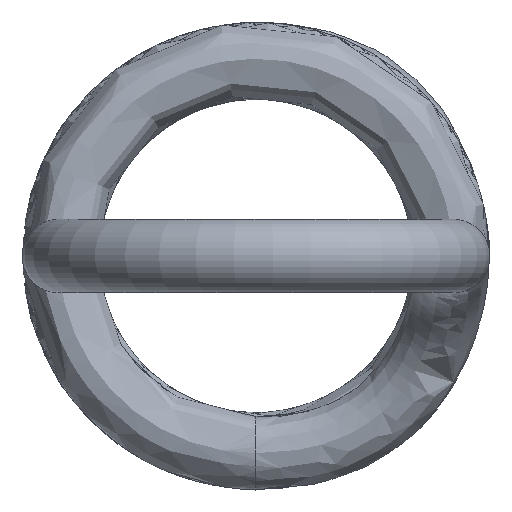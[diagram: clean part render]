
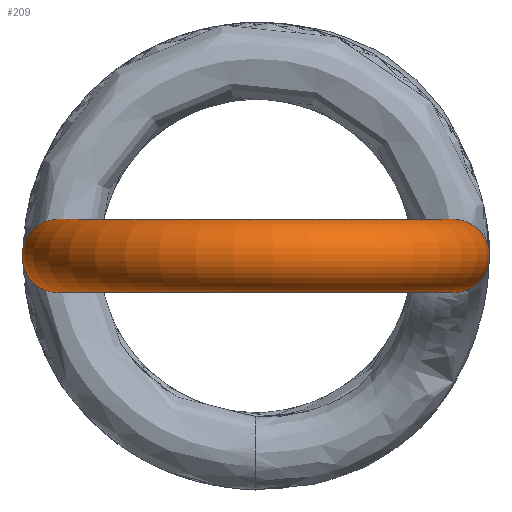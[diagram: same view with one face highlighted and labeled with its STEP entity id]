
A CAD part, front view. The second image highlights one B-rep face of the part: STEP entity #209.
In plain terms, the highlighted toroidal (fillet/blend) face has major radius 1.475 mm and minor radius 0.275 mm.
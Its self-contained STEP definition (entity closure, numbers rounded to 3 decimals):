
#15=TOROIDAL_SURFACE('',#246,1.475,0.275);
#22=CIRCLE('',#244,0.275);
#23=CIRCLE('',#245,0.275);
#24=CIRCLE('',#247,0.275);
#25=CIRCLE('',#248,1.2);
#39=FACE_OUTER_BOUND('',#50,.T.);
#50=EDGE_LOOP('',(#149,#150,#151,#152,#153));
#87=VERTEX_POINT('',#718);
#88=VERTEX_POINT('',#729);
#91=VERTEX_POINT('',#790);
#110=EDGE_CURVE('',#88,#87,#22,.T.);
#111=EDGE_CURVE('',#87,#88,#23,.T.);
#114=EDGE_CURVE('',#91,#91,#24,.T.);
#115=EDGE_CURVE('',#91,#88,#25,.T.);
#149=ORIENTED_EDGE('',*,*,#114,.F.);
#150=ORIENTED_EDGE('',*,*,#115,.T.);
#151=ORIENTED_EDGE('',*,*,#110,.T.);
#152=ORIENTED_EDGE('',*,*,#111,.T.);
#153=ORIENTED_EDGE('',*,*,#115,.F.);
#209=ADVANCED_FACE('',(#39),#15,.T.);
#244=AXIS2_PLACEMENT_3D('',#730,#270,#271);
#245=AXIS2_PLACEMENT_3D('',#731,#272,#273);
#246=AXIS2_PLACEMENT_3D('',#789,#274,#275);
#247=AXIS2_PLACEMENT_3D('',#791,#276,#277);
#248=AXIS2_PLACEMENT_3D('',#792,#278,#279);
#270=DIRECTION('center_axis',(0.,-1.,0.));
#271=DIRECTION('ref_axis',(-0.445,0.,-0.896));
#272=DIRECTION('center_axis',(0.,-1.,0.));
#273=DIRECTION('ref_axis',(-0.445,0.,-0.896));
#274=DIRECTION('center_axis',(0.,0.,
-1.));
#275=DIRECTION('ref_axis',(-0.093,-0.996,0.));
#276=DIRECTION('center_axis',(0.186,0.983,0.));
#277=DIRECTION('ref_axis',(0.437,-0.083,-0.896));
#278=DIRECTION('center_axis',(0.,0.,
1.));
#279=DIRECTION('ref_axis',(-0.093,-0.996,0.));
#718=CARTESIAN_POINT('',(1.353,-14.225,-0.246));
#729=CARTESIAN_POINT('',(1.2,-14.225,0.));
#730=CARTESIAN_POINT('Origin',(1.475,-14.225,0.));
#731=CARTESIAN_POINT('Origin',(1.475,-14.225,0.));
#789=CARTESIAN_POINT('Origin',(0.,-14.225,0.));
#790=CARTESIAN_POINT('',(-1.179,-14.002,0.));
#791=CARTESIAN_POINT('Origin',(-1.449,-13.951,0.));
#792=CARTESIAN_POINT('Origin',(0.,-14.225,0.));
